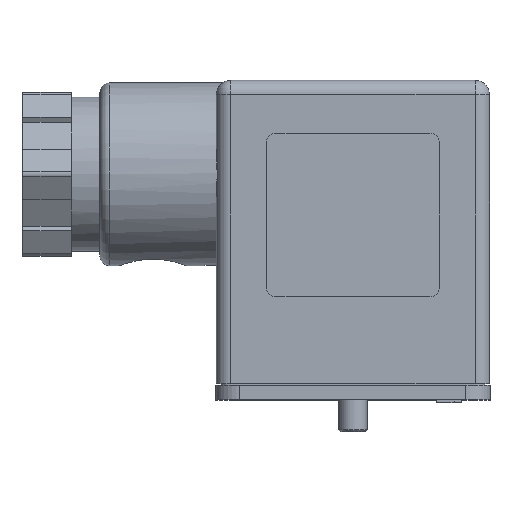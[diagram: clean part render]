
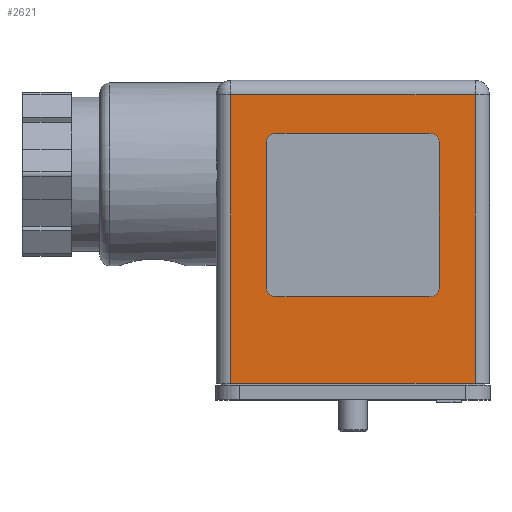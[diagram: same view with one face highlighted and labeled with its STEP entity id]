
A CAD part, top view. The second image highlights one B-rep face of the part: STEP entity #2621.
In plain terms, the highlighted planar face has unit normal (0, 0, 1).
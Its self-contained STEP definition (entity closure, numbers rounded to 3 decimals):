
#347=PLANE('',#7513);
#1380=LINE('',#14511,#2100);
#1384=LINE('',#14521,#2104);
#1387=LINE('',#14529,#2107);
#1390=LINE('',#14537,#2110);
#1398=LINE('',#14583,#2118);
#1401=LINE('',#14590,#2121);
#1417=LINE('',#14631,#2137);
#1419=LINE('',#14638,#2139);
#2100=VECTOR('',#9089,1.);
#2104=VECTOR('',#9099,1.);
#2107=VECTOR('',#9108,1.);
#2110=VECTOR('',#9117,1.);
#2118=VECTOR('',#9171,1.);
#2121=VECTOR('',#9178,1.);
#2137=VECTOR('',#9222,1.);
#2139=VECTOR('',#9232,1.);
#2621=ADVANCED_FACE('',(#2790,#2791),#347,.F.);
#2790=FACE_BOUND('',#3229,.T.);
#2791=FACE_BOUND('',#3230,.T.);
#3229=EDGE_LOOP('',(#5146,#5147,#5148,#5149,#5150,#5151,#5152,#5153));
#3230=EDGE_LOOP('',(#5154,#5155,#5156,#5157));
#5146=ORIENTED_EDGE('',*,*,#6777,.F.);
#5147=ORIENTED_EDGE('',*,*,#6792,.F.);
#5148=ORIENTED_EDGE('',*,*,#6790,.F.);
#5149=ORIENTED_EDGE('',*,*,#6788,.F.);
#5150=ORIENTED_EDGE('',*,*,#6786,.F.);
#5151=ORIENTED_EDGE('',*,*,#6784,.F.);
#5152=ORIENTED_EDGE('',*,*,#6782,.F.);
#5153=ORIENTED_EDGE('',*,*,#6780,.F.);
#5154=ORIENTED_EDGE('',*,*,#6837,.T.);
#5155=ORIENTED_EDGE('',*,*,#6816,.T.);
#5156=ORIENTED_EDGE('',*,*,#6812,.T.);
#5157=ORIENTED_EDGE('',*,*,#6840,.T.);
#5829=VERTEX_POINT('',#14512);
#5830=VERTEX_POINT('',#14513);
#5831=VERTEX_POINT('',#14518);
#5832=VERTEX_POINT('',#14522);
#5833=VERTEX_POINT('',#14526);
#5834=VERTEX_POINT('',#14530);
#5835=VERTEX_POINT('',#14534);
#5836=VERTEX_POINT('',#14538);
#5848=VERTEX_POINT('',#14574);
#5850=VERTEX_POINT('',#14580);
#5852=VERTEX_POINT('',#14588);
#5864=VERTEX_POINT('',#14632);
#6777=EDGE_CURVE('',#5829,#5830,#1380,.T.);
#6780=EDGE_CURVE('',#5830,#5831,#6991,.T.);
#6782=EDGE_CURVE('',#5831,#5832,#1384,.T.);
#6784=EDGE_CURVE('',#5832,#5833,#6992,.T.);
#6786=EDGE_CURVE('',#5833,#5834,#1387,.T.);
#6788=EDGE_CURVE('',#5834,#5835,#6993,.T.);
#6790=EDGE_CURVE('',#5835,#5836,#1390,.T.);
#6792=EDGE_CURVE('',#5836,#5829,#6994,.T.);
#6812=EDGE_CURVE('',#5850,#5848,#1398,.T.);
#6816=EDGE_CURVE('',#5852,#5850,#1401,.T.);
#6837=EDGE_CURVE('',#5864,#5852,#1417,.T.);
#6840=EDGE_CURVE('',#5848,#5864,#1419,.T.);
#6991=CIRCLE('',#7462,1.);
#6992=CIRCLE('',#7465,1.);
#6993=CIRCLE('',#7468,1.);
#6994=CIRCLE('',#7471,1.);
#7462=AXIS2_PLACEMENT_3D('',#14517,#9094,#9095);
#7465=AXIS2_PLACEMENT_3D('',#14525,#9103,#9104);
#7468=AXIS2_PLACEMENT_3D('',#14533,#9112,#9113);
#7471=AXIS2_PLACEMENT_3D('',#14541,#9121,#9122);
#7513=AXIS2_PLACEMENT_3D('',#14639,#9233,#9234);
#9089=DIRECTION('',(0.,-1.,0.));
#9094=DIRECTION('',(0.,0.,1.));
#9095=DIRECTION('',(1.,0.,0.));
#9099=DIRECTION('',(1.,0.,0.));
#9103=DIRECTION('',(0.,0.,1.));
#9104=DIRECTION('',(1.,0.,0.));
#9108=DIRECTION('',(0.,1.,0.));
#9112=DIRECTION('',(0.,0.,1.));
#9113=DIRECTION('',(1.,0.,0.));
#9117=DIRECTION('',(-1.,0.,0.));
#9121=DIRECTION('',(0.,0.,1.));
#9122=DIRECTION('',(1.,0.,0.));
#9171=DIRECTION('',(-1.,0.,0.));
#9178=DIRECTION('',(0.,1.,0.));
#9222=DIRECTION('',(1.,0.,0.));
#9232=DIRECTION('',(0.,-1.,0.));
#9233=DIRECTION('',(0.,0.,-1.));
#9234=DIRECTION('',(1.,0.,0.));
#14511=CARTESIAN_POINT('',(-9.,25.2,-4.5));
#14512=CARTESIAN_POINT('',(-9.,25.2,-4.5));
#14513=CARTESIAN_POINT('',(-9.,10.2,-4.5));
#14517=CARTESIAN_POINT('',(-8.,10.2,-4.5));
#14518=CARTESIAN_POINT('',(-8.,9.2,-4.5));
#14521=CARTESIAN_POINT('',(-8.,9.2,-4.5));
#14522=CARTESIAN_POINT('',(8.,9.2,-4.5));
#14525=CARTESIAN_POINT('',(8.,10.2,-4.5));
#14526=CARTESIAN_POINT('',(9.,10.2,-4.5));
#14529=CARTESIAN_POINT('',(9.,25.2,-4.5));
#14530=CARTESIAN_POINT('',(9.,25.2,-4.5));
#14533=CARTESIAN_POINT('',(8.,25.2,-4.5));
#14534=CARTESIAN_POINT('',(8.,26.2,-4.5));
#14537=CARTESIAN_POINT('',(-8.,26.2,-4.5));
#14538=CARTESIAN_POINT('',(-8.,26.2,-4.5));
#14541=CARTESIAN_POINT('',(-8.,25.2,-4.5));
#14574=CARTESIAN_POINT('',(-12.7,30.2,-4.5));
#14580=CARTESIAN_POINT('',(12.7,30.2,-4.5));
#14583=CARTESIAN_POINT('',(-14.2,30.2,-4.5));
#14588=CARTESIAN_POINT('',(12.7,0.2,-4.5));
#14590=CARTESIAN_POINT('',(12.7,31.7,-4.5));
#14631=CARTESIAN_POINT('',(-14.2,0.2,-4.5));
#14632=CARTESIAN_POINT('',(-12.7,0.2,-4.5));
#14638=CARTESIAN_POINT('',(-12.7,31.7,-4.5));
#14639=CARTESIAN_POINT('',(-14.2,31.7,-4.5));
